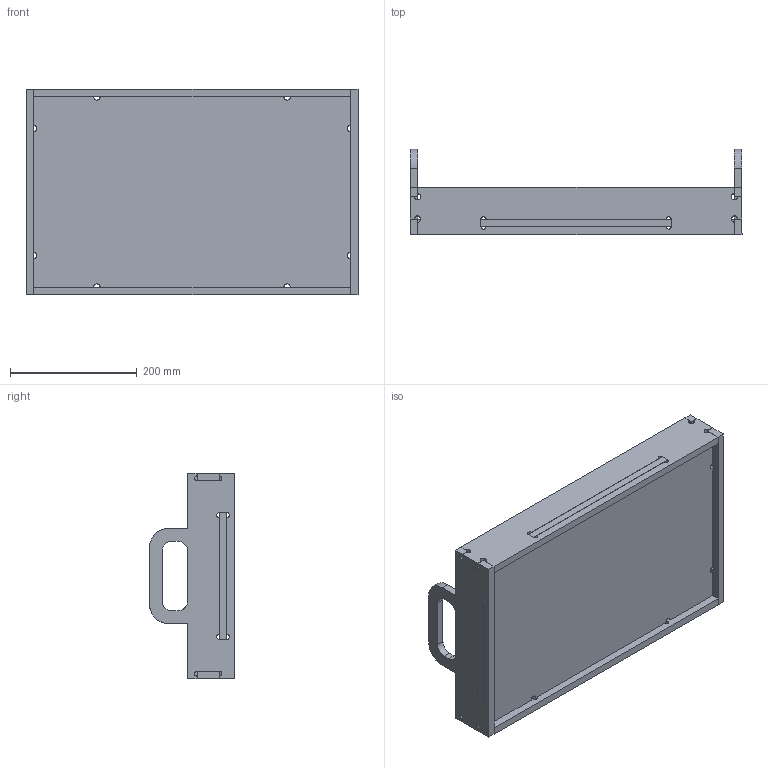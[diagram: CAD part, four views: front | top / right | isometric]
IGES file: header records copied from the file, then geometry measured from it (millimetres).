
Global section: file name: Tablet_complete v3; native system: unknown; preprocessor: unknown; author: lukas.hellwig; organization: unknown; date: 20180616.144734; units: millimetre
Bounding box: 524 x 134 x 324 mm (x, y, z)
Volume: 3350987.6 mm3; surface area: 665678.7 mm2
Topology: 5 solids, 5 shells, 162 faces, 456 edges, 304 vertices
Faces by surface type: bspline 162
